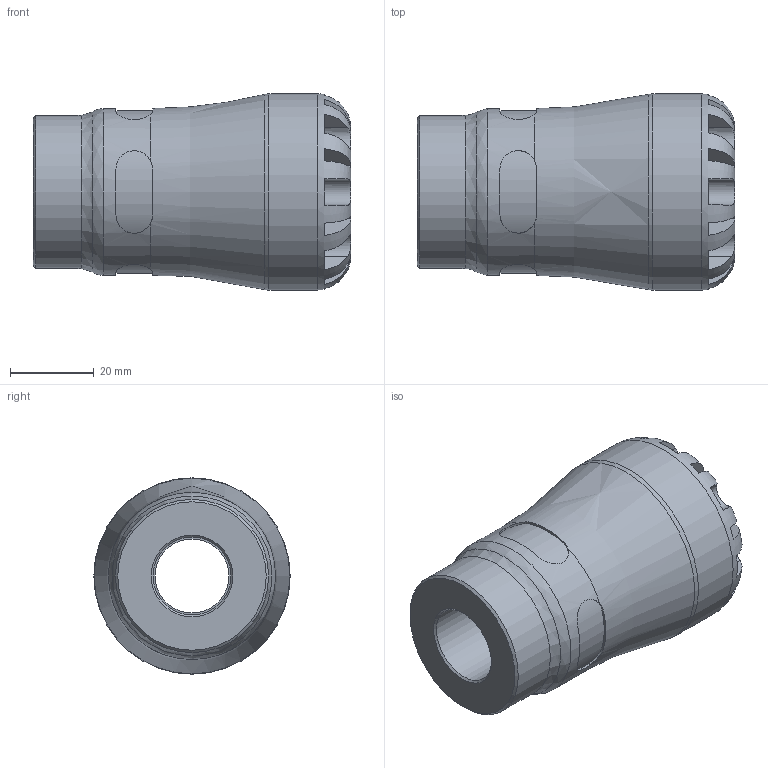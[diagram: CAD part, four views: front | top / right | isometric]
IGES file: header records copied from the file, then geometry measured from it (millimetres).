
Global section: file name: 107300025005_197300025005.ipt; native system: Autodesk Inventor 2015; preprocessor: unknown; author: KIM; date: 20170122.113558; units: millimetre
Bounding box: 76 x 47 x 47 mm (x, y, z)
Volume: 70893.3 mm3; surface area: 18490.9 mm2
Topology: 1 solids, 1 shells, 104 faces, 279 edges, 180 vertices
Faces by surface type: plane 61, revolution 27, cylinder 15, cone 1
Full cylindrical faces by diameter (mm): 36.66 x1, 39.95 x1, 47 x1
